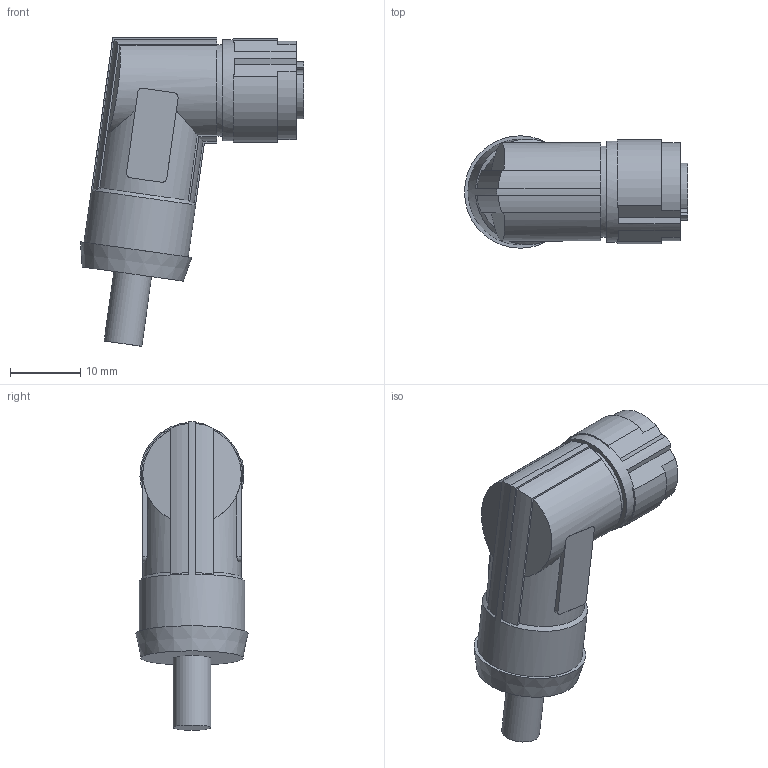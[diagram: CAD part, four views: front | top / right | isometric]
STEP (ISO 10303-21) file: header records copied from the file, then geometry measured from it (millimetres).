
FILE_DESCRIPTION( ( 'Unknown' ), '1' );
FILE_NAME( 'X:/SolidEdge/Models/Dokumentationen/_Standardteile/Kabeldosen/Phoenix/ES 33/Vereinfachte Modelle/Neutralformate/ESW 33ABxxxxG.stp', 'Unknown', ( 'Unknown' ), ( 'Unknown' ), 'PSStep 15.0.49', 'Unknown', ' ' );
FILE_SCHEMA( ( 'AUTOMOTIVE_DESIGN { 1 0 10303 214 1 1 1 1 }' ) );
Length unit declared in the file: millimetre
Products named in the file (1): 1407321_SAC_4P_5.0_28R_FR_SCO_RAIL-select
Bounding box: 31.72 x 16 x 43.89 mm (x, y, z)
Volume: 7369.4 mm3; surface area: 3456.9 mm2
Topology: 1 solids, 1 shells, 89 faces, 231 edges, 154 vertices
Faces by surface type: plane 44, cylinder 38, cone 7
Full cylindrical faces by diameter (mm): 1.2 x4, 5.4 x1, 12.1 x1, 13 x1, 14.4 x1, 15 x1
Entity records: 3953 total; most frequent: CARTESIAN_POINT 1089, DIRECTION 459, ORIENTED_EDGE 420, EDGE_CURVE 210, AXIS2_PLACEMENT_3D 177, VERTEX_POINT 147, EDGE_LOOP 113, LINE 105
